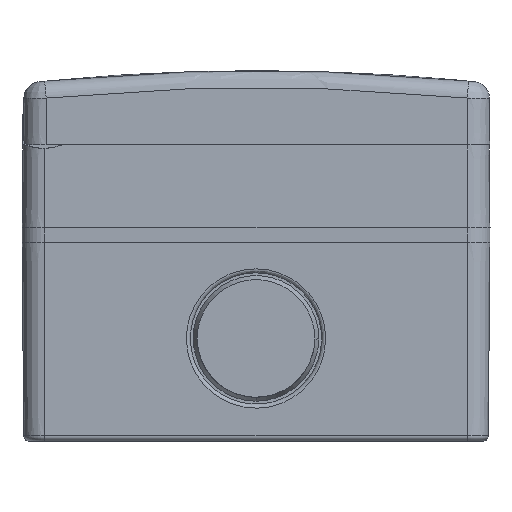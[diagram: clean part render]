
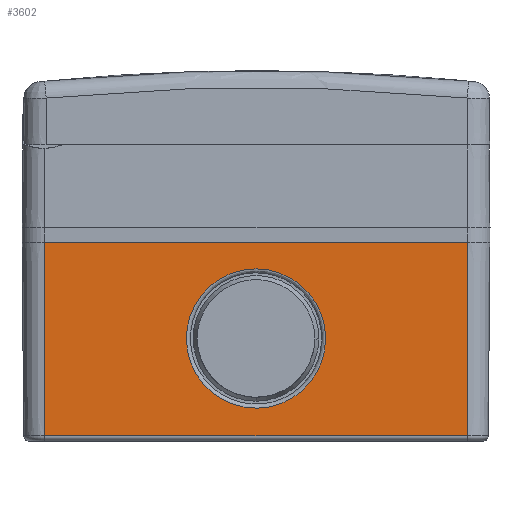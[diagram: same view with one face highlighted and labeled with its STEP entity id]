
A CAD part, front view. The second image highlights one B-rep face of the part: STEP entity #3602.
In plain terms, the highlighted planar face has unit normal (0, -1, -0.009).
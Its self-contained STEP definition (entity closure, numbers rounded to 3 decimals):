
#311=PLANE('',#8584);
#416=FACE_BOUND('',#4197,.T.);
#417=FACE_BOUND('',#4198,.T.);
#2506=LINE('',#13055,#3063);
#2508=LINE('',#13058,#3065);
#2509=LINE('',#13061,#3066);
#2510=LINE('',#13062,#3067);
#3063=VECTOR('',#9790,1.);
#3065=VECTOR('',#9794,1.);
#3066=VECTOR('',#9795,1.);
#3067=VECTOR('',#9796,1.);
#3602=ADVANCED_FACE('',(#416,#417),#311,.T.);
#4197=EDGE_LOOP('',(#5385,#5386,#5387,#5388));
#4198=EDGE_LOOP('',(#5389));
#5385=ORIENTED_EDGE('',*,*,#7614,.T.);
#5386=ORIENTED_EDGE('',*,*,#7615,.T.);
#5387=ORIENTED_EDGE('',*,*,#7612,.F.);
#5388=ORIENTED_EDGE('',*,*,#7616,.F.);
#5389=ORIENTED_EDGE('',*,*,#7617,.T.);
#6635=VERTEX_POINT('',#12786);
#6664=VERTEX_POINT('',#13012);
#6678=VERTEX_POINT('',#13059);
#6679=VERTEX_POINT('',#13060);
#6680=VERTEX_POINT('',#13064);
#7612=EDGE_CURVE('',#6635,#6664,#2506,.T.);
#7614=EDGE_CURVE('',#6678,#6679,#2508,.T.);
#7615=EDGE_CURVE('',#6679,#6664,#2509,.T.);
#7616=EDGE_CURVE('',#6678,#6635,#2510,.T.);
#7617=EDGE_CURVE('',#6680,#6680,#8218,.T.);
#8218=ELLIPSE('',#8583,12.2,12.2);
#8583=AXIS2_PLACEMENT_3D('',#13063,#9797,#9798);
#8584=AXIS2_PLACEMENT_3D('',#13065,#9799,#9800);
#9790=DIRECTION('',(-1.,0.,0.));
#9794=DIRECTION('',(-1.,0.,0.));
#9795=DIRECTION('',(0.,0.009,-1.));
#9796=DIRECTION('',(0.,0.009,-1.));
#9797=DIRECTION('',(0.,1.,0.009));
#9798=DIRECTION('',(0.,-0.009,1.));
#9799=DIRECTION('',(0.,-1.,-0.009));
#9800=DIRECTION('',(1.,0.,0.));
#12786=CARTESIAN_POINT('',(37.,-33.694,-53.419));
#13012=CARTESIAN_POINT('',(-37.,-33.694,-53.419));
#13055=CARTESIAN_POINT('',(37.,-33.694,-53.419));
#13058=CARTESIAN_POINT('',(37.,-33.99,-19.577));
#13059=CARTESIAN_POINT('',(37.,-33.99,-19.577));
#13060=CARTESIAN_POINT('',(-37.,-33.99,-19.577));
#13061=CARTESIAN_POINT('',(-37.,-33.99,-19.577));
#13062=CARTESIAN_POINT('',(37.,-33.99,-19.577));
#13063=CARTESIAN_POINT('',(0.,-33.843,-36.417));
#13064=CARTESIAN_POINT('',(0.,-33.949,-24.217));
#13065=CARTESIAN_POINT('',(37.002,-33.99,-19.575));
